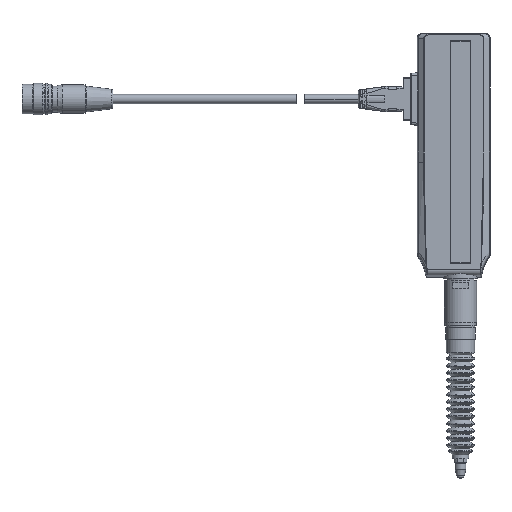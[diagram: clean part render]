
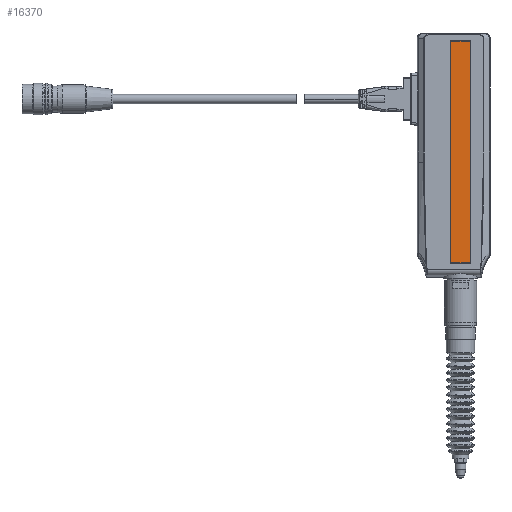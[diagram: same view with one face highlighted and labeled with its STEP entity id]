
A CAD part, top view. The second image highlights one B-rep face of the part: STEP entity #16370.
In plain terms, the highlighted planar face has unit normal (0, 0, 1).
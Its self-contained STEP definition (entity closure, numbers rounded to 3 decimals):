
#15620=CARTESIAN_POINT('',(2.05,44.,8.575));
#15630=DIRECTION('',(-0.,0.,1.));
#15640=DIRECTION('',(0.,-1.,0.));
#15650=AXIS2_PLACEMENT_3D('',#15620,#15630,#15640);
#15660=PLANE('',#15650);
#15670=CARTESIAN_POINT('',(0.,111.,8.575));
#15680=DIRECTION('',(1.,0.,0.));
#15690=VECTOR('',#15680,1.);
#15700=LINE('',#15670,#15690);
#15710=CARTESIAN_POINT('',(-4.15,111.,8.575));
#15720=VERTEX_POINT('',#15710);
#15730=CARTESIAN_POINT('',(4.15,111.,8.575));
#15740=VERTEX_POINT('',#15730);
#15750=EDGE_CURVE('',#15720,#15740,#15700,.T.);
#15760=ORIENTED_EDGE('',*,*,#15750,.F.);
#15770=CARTESIAN_POINT('',(4.15,110.5,8.575));
#15780=DIRECTION('',(0.,0.,1.));
#15790=DIRECTION('',(0.,1.,0.));
#15800=AXIS2_PLACEMENT_3D('',#15770,#15780,#15790);
#15810=CIRCLE('',#15800,0.5);
#15820=CARTESIAN_POINT('',(4.65,110.5,8.575));
#15830=VERTEX_POINT('',#15820);
#15840=EDGE_CURVE('',#15830,#15740,#15810,.T.);
#15850=ORIENTED_EDGE('',*,*,#15840,.T.);
#15860=CARTESIAN_POINT('',(4.65,46.65,8.575));
#15870=DIRECTION('',(0.,-1.,0.));
#15880=VECTOR('',#15870,1.);
#15890=LINE('',#15860,#15880);
#15900=CARTESIAN_POINT('',(4.65,7.8,8.575));
#15910=VERTEX_POINT('',#15900);
#15920=EDGE_CURVE('',#15830,#15910,#15890,.T.);
#15930=ORIENTED_EDGE('',*,*,#15920,.F.);
#15940=CARTESIAN_POINT('',(4.15,7.8,8.575));
#15950=DIRECTION('',(0.,0.,1.));
#15960=DIRECTION('',(0.,1.,0.));
#15970=AXIS2_PLACEMENT_3D('',#15940,#15950,#15960);
#15980=CIRCLE('',#15970,0.5);
#15990=CARTESIAN_POINT('',(4.15,7.3,8.575));
#16000=VERTEX_POINT('',#15990);
#16010=EDGE_CURVE('',#16000,#15910,#15980,.T.);
#16020=ORIENTED_EDGE('',*,*,#16010,.T.);
#16030=CARTESIAN_POINT('',(-4.65,7.3,8.575));
#16040=DIRECTION('',(1.,0.,0.));
#16050=VECTOR('',#16040,1.);
#16060=LINE('',#16030,#16050);
#16070=CARTESIAN_POINT('',(-4.15,7.3,8.575));
#16080=VERTEX_POINT('',#16070);
#16090=EDGE_CURVE('',#16080,#16000,#16060,.T.);
#16100=ORIENTED_EDGE('',*,*,#16090,.T.);
#16110=CARTESIAN_POINT('',(-4.15,7.8,8.575));
#16120=DIRECTION('',(0.,0.,1.));
#16130=DIRECTION('',(0.,1.,0.));
#16140=AXIS2_PLACEMENT_3D('',#16110,#16120,#16130);
#16150=CIRCLE('',#16140,0.5);
#16160=CARTESIAN_POINT('',(-4.65,7.8,8.575));
#16170=VERTEX_POINT('',#16160);
#16180=EDGE_CURVE('',#16170,#16080,#16150,.T.);
#16190=ORIENTED_EDGE('',*,*,#16180,.T.);
#16200=CARTESIAN_POINT('',(-4.65,111.,8.575));
#16210=DIRECTION('',(0.,-1.,0.));
#16220=VECTOR('',#16210,1.);
#16230=LINE('',#16200,#16220);
#16240=CARTESIAN_POINT('',(-4.65,110.5,8.575));
#16250=VERTEX_POINT('',#16240);
#16260=EDGE_CURVE('',#16250,#16170,#16230,.T.);
#16270=ORIENTED_EDGE('',*,*,#16260,.T.);
#16280=CARTESIAN_POINT('',(-4.15,110.5,8.575));
#16290=DIRECTION('',(0.,0.,-1.));
#16300=DIRECTION('',(0.,-1.,0.));
#16310=AXIS2_PLACEMENT_3D('',#16280,#16290,#16300);
#16320=CIRCLE('',#16310,0.5);
#16330=EDGE_CURVE('',#16250,#15720,#16320,.T.);
#16340=ORIENTED_EDGE('',*,*,#16330,.F.);
#16350=EDGE_LOOP('',(#16340,#16270,#16190,#16100,#16020,#15930,#15850,
#15760));
#16360=FACE_OUTER_BOUND('',#16350,.T.);
#16370=ADVANCED_FACE('',(#16360),#15660,.T.);
